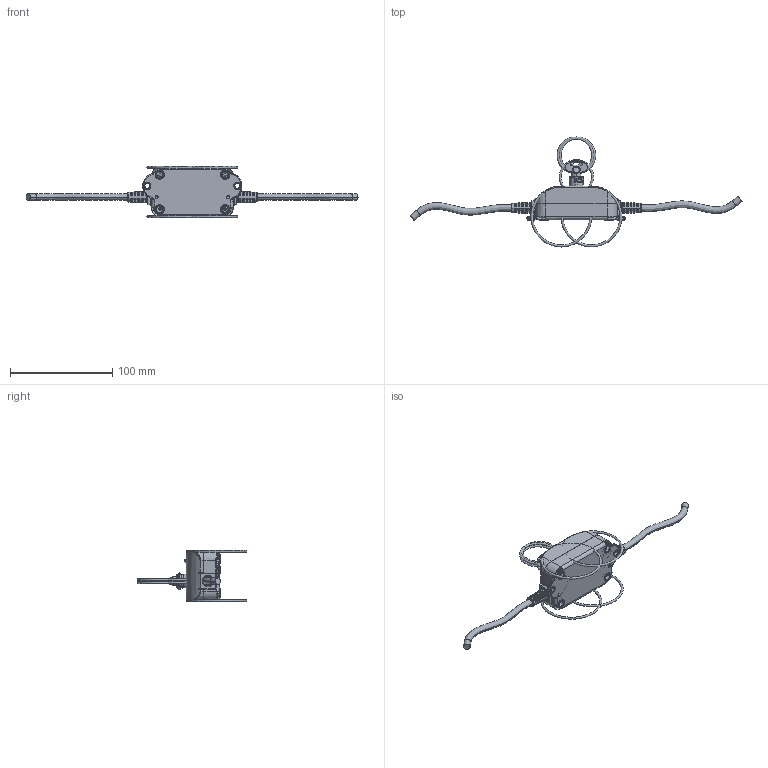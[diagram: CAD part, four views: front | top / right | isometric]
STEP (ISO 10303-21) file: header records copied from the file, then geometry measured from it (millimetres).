
FILE_DESCRIPTION((''),'2;1');
FILE_NAME('AC_ASM','2014-06-03T',('user'),(''),'PRO/ENGINEER BY PARAMETRIC TECHNOLOGY CORPORATION, 2008090','PRO/ENGINEER BY PARAMETRIC TECHNOLOGY CORPORATION, 2008090','');
FILE_SCHEMA(('CONFIG_CONTROL_DESIGN'));
Products named in the file (2): _AC; AC_ASM
Assembly tree (1 placements, depth 2):
  AC_ASM
    _AC
Bounding box: 324.61 x 107.52 x 50 mm (x, y, z)
Surface area: 72758.2 mm2 (no closed solid volume)
Topology: 0 solids, 0 shells, 1396 faces, 7539 edges, 7402 vertices
Faces by surface type: bspline 1256, torus 116, sphere 24
Entity records: 145601 total; most frequent: CARTESIAN_POINT 68349, DIRECTION 13139, TRIMMED_CURVE 10932, VECTOR 9011, LINE 9011, DEFINITIONAL_REPRESENTATION 7289, PCURVE 7289, COMPOSITE_CURVE_SEGMENT 7289
